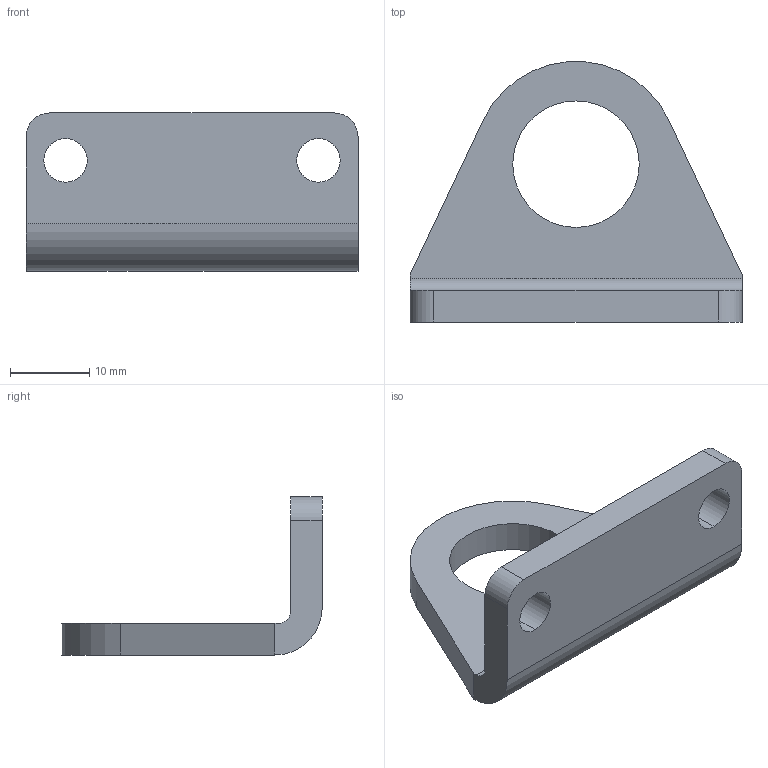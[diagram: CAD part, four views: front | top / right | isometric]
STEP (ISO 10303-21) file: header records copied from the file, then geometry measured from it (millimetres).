
FILE_DESCRIPTION (( 'STEP AP214' ), '1' );
FILE_NAME ('BW16.STEP', '2022-08-18T05:52:59', ( '' ), ( '' ), 'SwSTEP 2.0', 'SolidWorks 2019', '' );
FILE_SCHEMA (( 'AUTOMOTIVE_DESIGN' ));
Length unit declared in the file: millimetre
Products named in the file (1): BW16
Bounding box: 42 x 32.95 x 20 mm (x, y, z)
Volume: 5446.2 mm3; surface area: 3689 mm2
Topology: 1 solids, 1 shells, 20 faces, 52 edges, 34 vertices
Faces by surface type: cylinder 11, plane 9
Entity records: 668 total; most frequent: DIRECTION 116, CARTESIAN_POINT 107, ORIENTED_EDGE 104, EDGE_CURVE 52, AXIS2_PLACEMENT_3D 43, VERTEX_POINT 34, VECTOR 30, LINE 30
